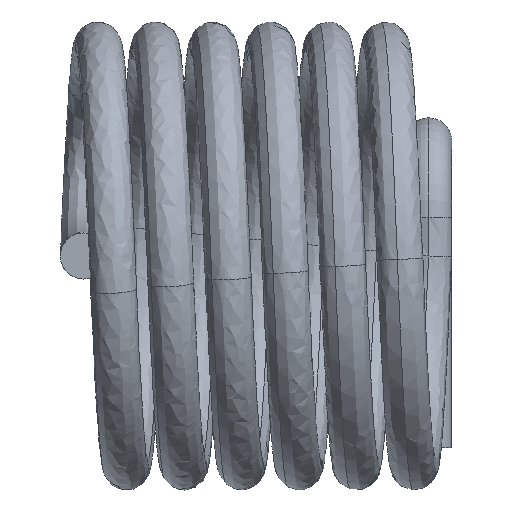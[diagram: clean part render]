
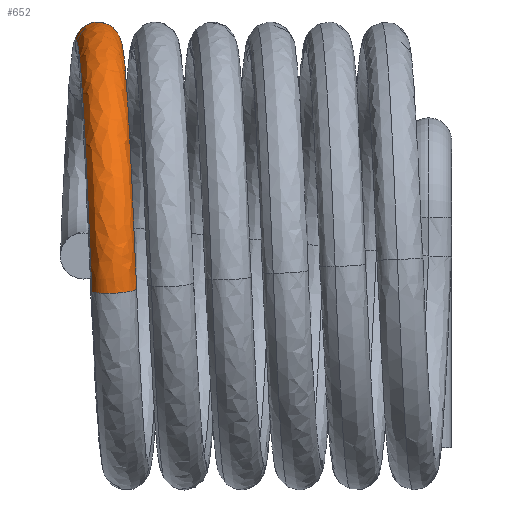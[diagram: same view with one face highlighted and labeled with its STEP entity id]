
A CAD part, left-side view. The second image highlights one B-rep face of the part: STEP entity #652.
In plain terms, the highlighted free-form (B-spline) face has degree [5, 5] with [12, 6] control points.
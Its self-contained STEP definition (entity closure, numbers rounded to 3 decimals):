
#182=CARTESIAN_POINT('Vertex',(937.173,-771.508,109.321)) ;
#184=CARTESIAN_POINT('Vertex',(937.295,-770.342,109.576)) ;
#380=CARTESIAN_POINT('Control Point',(937.295,-770.342,109.576)) ;
#381=CARTESIAN_POINT('Control Point',(937.435,-770.397,109.763)) ;
#382=CARTESIAN_POINT('Control Point',(937.564,-770.57,109.928)) ;
#383=CARTESIAN_POINT('Control Point',(937.616,-770.834,109.98)) ;
#384=CARTESIAN_POINT('Control Point',(937.587,-771.275,109.907)) ;
#385=CARTESIAN_POINT('Control Point',(937.416,-771.501,109.656)) ;
#386=CARTESIAN_POINT('Control Point',(937.324,-771.537,109.527)) ;
#387=CARTESIAN_POINT('Control Point',(937.243,-771.536,109.415)) ;
#388=CARTESIAN_POINT('Control Point',(937.173,-771.508,109.321)) ;
#519=CARTESIAN_POINT('Vertex',(928.758,-772.055,104.179)) ;
#521=CARTESIAN_POINT('Vertex',(928.382,-770.921,104.069)) ;
#525=CARTESIAN_POINT('Control Point',(937.295,-770.342,109.576)) ;
#526=CARTESIAN_POINT('Control Point',(936.218,-770.399,110.358)) ;
#527=CARTESIAN_POINT('Control Point',(934.909,-770.458,110.825)) ;
#528=CARTESIAN_POINT('Control Point',(933.494,-770.516,110.882)) ;
#529=CARTESIAN_POINT('Control Point',(930.801,-770.633,110.159)) ;
#530=CARTESIAN_POINT('Control Point',(928.929,-770.75,108.081)) ;
#531=CARTESIAN_POINT('Control Point',(928.336,-770.808,106.785)) ;
#532=CARTESIAN_POINT('Control Point',(928.163,-770.865,105.394)) ;
#533=CARTESIAN_POINT('Control Point',(928.382,-770.921,104.069)) ;
#536=CARTESIAN_POINT('Control Point',(937.173,-771.508,109.321)) ;
#537=CARTESIAN_POINT('Control Point',(936.149,-771.563,110.067)) ;
#538=CARTESIAN_POINT('Control Point',(934.905,-771.618,110.507)) ;
#539=CARTESIAN_POINT('Control Point',(933.568,-771.672,110.555)) ;
#540=CARTESIAN_POINT('Control Point',(931.036,-771.78,109.864)) ;
#541=CARTESIAN_POINT('Control Point',(929.287,-771.889,107.917)) ;
#542=CARTESIAN_POINT('Control Point',(928.733,-771.943,106.709)) ;
#543=CARTESIAN_POINT('Control Point',(928.564,-771.999,105.416)) ;
#544=CARTESIAN_POINT('Control Point',(928.758,-772.055,104.179)) ;
#566=CARTESIAN_POINT('Control Point',(939.294,-771.327,105.908)) ;
#567=CARTESIAN_POINT('Control Point',(936.982,-770.81,105.523)) ;
#568=CARTESIAN_POINT('Control Point',(938.629,-768.727,105.905)) ;
#569=CARTESIAN_POINT('Control Point',(940.941,-769.244,106.29)) ;
#570=CARTESIAN_POINT('Control Point',(941.605,-771.844,106.292)) ;
#571=CARTESIAN_POINT('Control Point',(939.294,-771.327,105.908)) ;
#572=CARTESIAN_POINT('Control Point',(939.154,-771.364,106.72)) ;
#573=CARTESIAN_POINT('Control Point',(936.901,-770.847,105.981)) ;
#574=CARTESIAN_POINT('Control Point',(938.49,-768.764,106.616)) ;
#575=CARTESIAN_POINT('Control Point',(940.743,-769.281,107.356)) ;
#576=CARTESIAN_POINT('Control Point',(941.407,-771.88,107.46)) ;
#577=CARTESIAN_POINT('Control Point',(939.154,-771.364,106.72)) ;
#578=CARTESIAN_POINT('Control Point',(938.858,-771.4,107.506)) ;
#579=CARTESIAN_POINT('Control Point',(936.733,-770.879,106.423)) ;
#580=CARTESIAN_POINT('Control Point',(938.218,-768.799,107.301)) ;
#581=CARTESIAN_POINT('Control Point',(940.343,-769.32,108.384)) ;
#582=CARTESIAN_POINT('Control Point',(940.982,-771.921,108.59)) ;
#583=CARTESIAN_POINT('Control Point',(938.858,-771.4,107.506)) ;
#584=CARTESIAN_POINT('Control Point',(938.411,-771.436,108.224)) ;
#585=CARTESIAN_POINT('Control Point',(936.481,-770.908,106.828)) ;
#586=CARTESIAN_POINT('Control Point',(937.82,-768.833,107.927)) ;
#587=CARTESIAN_POINT('Control Point',(939.75,-769.362,109.323)) ;
#588=CARTESIAN_POINT('Control Point',(940.342,-771.965,109.621)) ;
#589=CARTESIAN_POINT('Control Point',(938.411,-771.436,108.224)) ;
#590=CARTESIAN_POINT('Control Point',(936.957,-771.528,109.78)) ;
#591=CARTESIAN_POINT('Control Point',(935.659,-770.97,107.705)) ;
#592=CARTESIAN_POINT('Control Point',(936.53,-768.917,109.292)) ;
#593=CARTESIAN_POINT('Control Point',(937.829,-769.474,111.367)) ;
#594=CARTESIAN_POINT('Control Point',(938.256,-772.085,111.855)) ;
#595=CARTESIAN_POINT('Control Point',(936.957,-771.528,109.78)) ;
#596=CARTESIAN_POINT('Control Point',(934.905,-771.618,110.507)) ;
#597=CARTESIAN_POINT('Control Point',(934.498,-771.014,108.118)) ;
#598=CARTESIAN_POINT('Control Point',(934.708,-768.995,109.949)) ;
#599=CARTESIAN_POINT('Control Point',(935.116,-769.599,112.338)) ;
#600=CARTESIAN_POINT('Control Point',(935.313,-772.222,112.897)) ;
#601=CARTESIAN_POINT('Control Point',(934.905,-771.618,110.507)) ;
#602=CARTESIAN_POINT('Control Point',(933.568,-771.672,110.555)) ;
#603=CARTESIAN_POINT('Control Point',(933.74,-771.036,108.147)) ;
#604=CARTESIAN_POINT('Control Point',(933.507,-769.042,110.007)) ;
#605=CARTESIAN_POINT('Control Point',(933.335,-769.678,112.414)) ;
#606=CARTESIAN_POINT('Control Point',(933.396,-772.308,112.962)) ;
#607=CARTESIAN_POINT('Control Point',(933.568,-771.672,110.555)) ;
#608=CARTESIAN_POINT('Control Point',(931.036,-771.78,109.864)) ;
#609=CARTESIAN_POINT('Control Point',(932.298,-771.08,107.758)) ;
#610=CARTESIAN_POINT('Control Point',(931.198,-769.136,109.401)) ;
#611=CARTESIAN_POINT('Control Point',(929.936,-769.836,111.507)) ;
#612=CARTESIAN_POINT('Control Point',(929.773,-772.48,111.969)) ;
#613=CARTESIAN_POINT('Control Point',(931.036,-771.78,109.864)) ;
#614=CARTESIAN_POINT('Control Point',(929.287,-771.889,107.917)) ;
#615=CARTESIAN_POINT('Control Point',(931.299,-771.14,106.647)) ;
#616=CARTESIAN_POINT('Control Point',(929.577,-769.236,107.611)) ;
#617=CARTESIAN_POINT('Control Point',(927.565,-769.986,108.88)) ;
#618=CARTESIAN_POINT('Control Point',(927.275,-772.638,109.187)) ;
#619=CARTESIAN_POINT('Control Point',(929.287,-771.889,107.917)) ;
#620=CARTESIAN_POINT('Control Point',(928.733,-771.943,106.709)) ;
#621=CARTESIAN_POINT('Control Point',(930.982,-771.176,105.956)) ;
#622=CARTESIAN_POINT('Control Point',(929.063,-769.288,106.483)) ;
#623=CARTESIAN_POINT('Control Point',(926.814,-770.055,107.237)) ;
#624=CARTESIAN_POINT('Control Point',(926.485,-772.711,107.463)) ;
#625=CARTESIAN_POINT('Control Point',(928.733,-771.943,106.709)) ;
#626=CARTESIAN_POINT('Control Point',(928.564,-771.999,105.416)) ;
#627=CARTESIAN_POINT('Control Point',(930.889,-771.222,105.214)) ;
#628=CARTESIAN_POINT('Control Point',(928.923,-769.342,105.271)) ;
#629=CARTESIAN_POINT('Control Point',(926.598,-770.119,105.473)) ;
#630=CARTESIAN_POINT('Control Point',(926.24,-772.776,105.618)) ;
#631=CARTESIAN_POINT('Control Point',(928.564,-771.999,105.416)) ;
#632=CARTESIAN_POINT('Control Point',(928.758,-772.055,104.179)) ;
#633=CARTESIAN_POINT('Control Point',(931.005,-771.278,104.508)) ;
#634=CARTESIAN_POINT('Control Point',(929.13,-769.398,104.122)) ;
#635=CARTESIAN_POINT('Control Point',(926.883,-770.175,103.794)) ;
#636=CARTESIAN_POINT('Control Point',(926.511,-772.832,103.851)) ;
#637=CARTESIAN_POINT('Control Point',(928.758,-772.055,104.179)) ;
#639=CARTESIAN_POINT('Control Point',(928.758,-772.055,104.179)) ;
#640=CARTESIAN_POINT('Control Point',(931.005,-771.278,104.508)) ;
#641=CARTESIAN_POINT('Control Point',(929.13,-769.398,104.122)) ;
#642=CARTESIAN_POINT('Control Point',(926.883,-770.175,103.794)) ;
#643=CARTESIAN_POINT('Control Point',(926.511,-772.832,103.851)) ;
#644=CARTESIAN_POINT('Control Point',(928.758,-772.055,104.179)) ;
#389=EDGE_CURVE('',#185,#183,#379,.T.) ;
#534=EDGE_CURVE('',#185,#522,#524,.T.) ;
#545=EDGE_CURVE('',#183,#520,#535,.T.) ;
#645=EDGE_CURVE('',#522,#520,#638,.T.) ;
#647=ORIENTED_EDGE('',*,*,#645,.T.) ;
#648=ORIENTED_EDGE('',*,*,#545,.F.) ;
#649=ORIENTED_EDGE('',*,*,#389,.F.) ;
#650=ORIENTED_EDGE('',*,*,#534,.T.) ;
#652=ADVANCED_FACE('\X2\4E3B9A7E8F6C76D889E395016746626D7C27\X0\',(#651),#565,.T.) ;
#183=VERTEX_POINT('',#182) ;
#185=VERTEX_POINT('',#184) ;
#520=VERTEX_POINT('',#519) ;
#522=VERTEX_POINT('',#521) ;
#379=B_SPLINE_CURVE_WITH_KNOTS('',5,(#380,#381,#382,#383,#384,#385,#386,#387,#388),.UNSPECIFIED.,.F.,.U.,(6,3,6),(1.885,2.827,3.77),.UNSPECIFIED.) ;
#646=EDGE_LOOP('',(#647,#648,#649,#650)) ;
#651=FACE_OUTER_BOUND('',#646,.T.) ;
#524=(BOUNDED_CURVE()B_SPLINE_CURVE(5,(#525,#526,#527,#528,#529,#530,#531,#532,#533),.UNSPECIFIED.,.F.,.U.)B_SPLINE_CURVE_WITH_KNOTS((6,3,6),(4.42,11.22,18.029),.UNSPECIFIED.)CURVE()GEOMETRIC_REPRESENTATION_ITEM()RATIONAL_B_SPLINE_CURVE((0.25,0.25,0.25,0.25,0.25,0.25,0.25,0.25,0.25))REPRESENTATION_ITEM('')) ;
#535=(BOUNDED_CURVE()B_SPLINE_CURVE(5,(#536,#537,#538,#539,#540,#541,#542,#543,#544),.UNSPECIFIED.,.F.,.U.)B_SPLINE_CURVE_WITH_KNOTS((6,3,6),(4.42,11.22,18.029),.UNSPECIFIED.)CURVE()GEOMETRIC_REPRESENTATION_ITEM()RATIONAL_B_SPLINE_CURVE((1.,1.,1.,1.,1.,1.,1.,1.,1.))REPRESENTATION_ITEM('')) ;
#638=(BOUNDED_CURVE()B_SPLINE_CURVE(5,(#639,#640,#641,#642,#643,#644),.UNSPECIFIED.,.F.,.U.)B_SPLINE_CURVE_WITH_KNOTS((6,6),(0.,3.77),.UNSPECIFIED.)CURVE()GEOMETRIC_REPRESENTATION_ITEM()RATIONAL_B_SPLINE_CURVE((1.,0.2,0.2,0.2,0.2,1.))REPRESENTATION_ITEM('')) ;
#565=(BOUNDED_SURFACE()B_SPLINE_SURFACE(5,5,((#566,#567,#568,#569,#570,#571),(#572,#573,#574,#575,#576,#577),(#578,#579,#580,#581,#582,#583),(#584,#585,#586,#587,#588,#589),(#590,#591,#592,#593,#594,#595),(#596,#597,#598,#599,#600,#601),(#602,#603,#604,#605,#606,#607),(#608,#609,#610,#611,#612,#613),(#614,#615,#616,#617,#618,#619),(#620,#621,#622,#623,#624,#625),(#626,#627,#628,#629,#630,#631),(#632,#633,#634,#635,#636,#637)),.UNSPECIFIED.,.F.,.F.,.U.)B_SPLINE_SURFACE_WITH_KNOTS((6,3,3,6),(6,6),(0.,4.42,11.22,18.029),(0.,3.77),.UNSPECIFIED.)GEOMETRIC_REPRESENTATION_ITEM()RATIONAL_B_SPLINE_SURFACE(((1.,0.2,0.2,0.2,0.2,1.),(1.,0.2,0.2,0.2,0.2,1.),(1.,0.2,0.2,0.2,0.2,1.),(1.,0.2,0.2,0.2,0.2,1.),(1.,0.2,0.2,0.2,0.2,1.),(1.,0.2,0.2,0.2,0.2,1.),(1.,0.2,0.2,0.2,0.2,1.),(1.,0.2,0.2,0.2,0.2,1.),(1.,0.2,0.2,0.2,0.2,1.),(1.,0.2,0.2,0.2,0.2,1.),(1.,0.2,0.2,0.2,0.2,1.),(1.,0.2,0.2,0.2,0.2,1.)))REPRESENTATION_ITEM('Rational BSpline Surface')SURFACE()) ;
